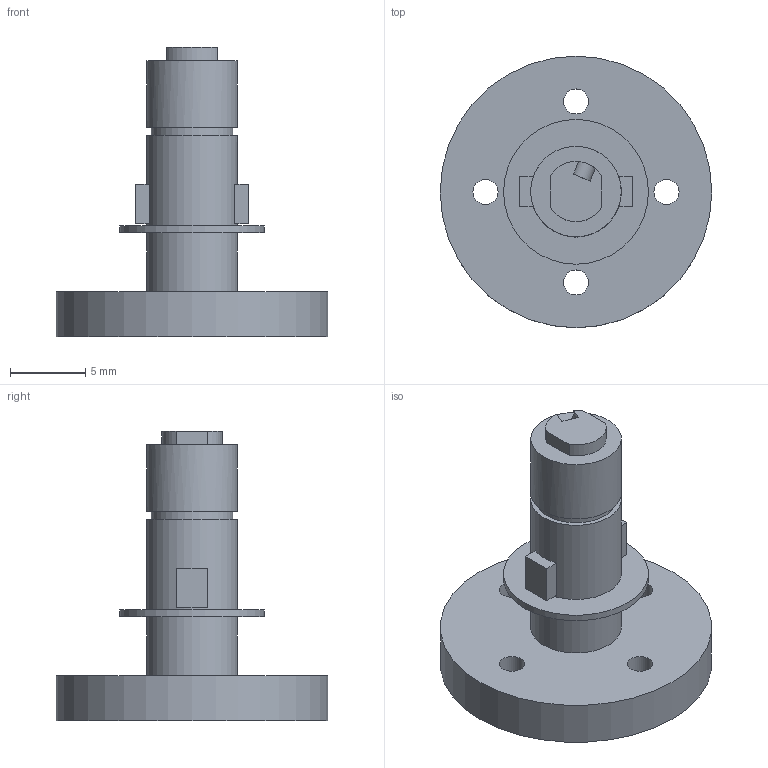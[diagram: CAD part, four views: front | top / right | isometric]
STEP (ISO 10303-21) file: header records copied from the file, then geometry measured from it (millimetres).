
FILE_DESCRIPTION(('Open CASCADE Model'),'2;1');
FILE_NAME('Open CASCADE Shape Model','2026-09-24T19:52:59',('Author'),( 'Open CASCADE'),'Open CASCADE STEP processor 7.8','Open CASCADE 7.8' ,'Unknown');
FILE_SCHEMA(('AUTOMOTIVE_DESIGN { 1 0 10303 214 1 1 1 1 }'));
Length unit declared in the file: millimetre
Products named in the file (1): Open CASCADE STEP translator 7.8 44
Bounding box: 18 x 18 x 19.2 mm (x, y, z)
Volume: 1205.1 mm3; surface area: 1143.5 mm2
Topology: 1 solids, 1 shells, 35 faces, 78 edges, 52 vertices
Faces by surface type: plane 21, cylinder 14
Full cylindrical faces by diameter (mm): 1.66 x4, 5.4 x1, 6 x3, 9.6 x1, 18 x1
Entity records: 2292 total; most frequent: CARTESIAN_POINT 644, DIRECTION 312, ORIENTED_EDGE 156, PCURVE 156, DEFINITIONAL_REPRESENTATION 156, LINE 138, VECTOR 138, EDGE_CURVE 78
